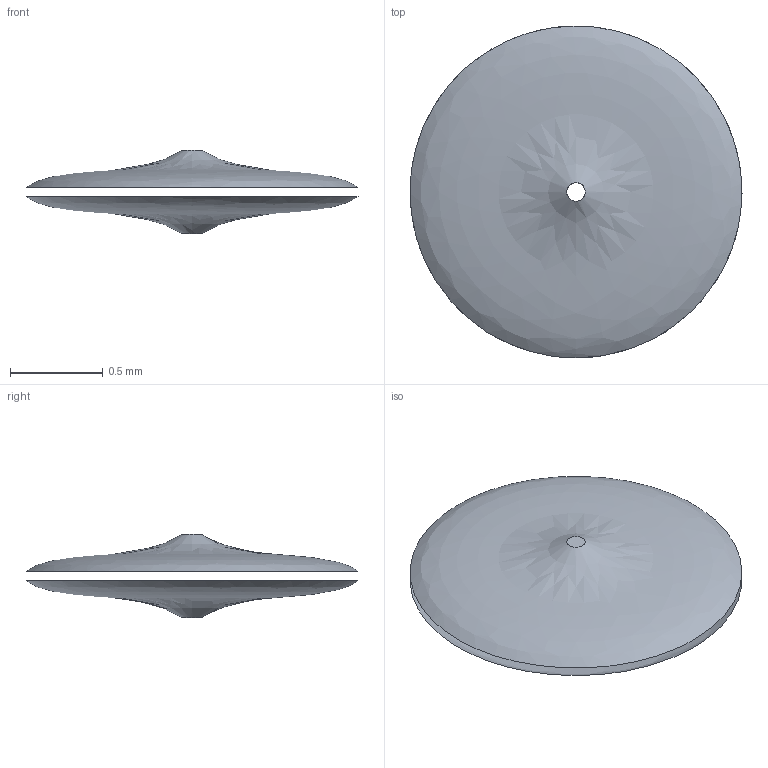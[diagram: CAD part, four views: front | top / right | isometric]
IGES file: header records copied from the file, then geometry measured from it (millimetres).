
Global section: file name: /home/lore/2005/xcmodel_3.2/surfaces/HiHat.igs; native system: XCMODEL ver.3.0 Universita' di Bologna; preprocessor: formato IGES Nov. 2001; date: 060219.234039; units: millimetre
Bounding box: 1.79 x 1.79 x 0.45 mm (x, y, z)
Surface area: 5.2 mm2 (no closed solid volume)
Topology: 0 solids, 0 shells, 2 faces, 6 edges, 4 vertices
Faces by surface type: bspline 2
